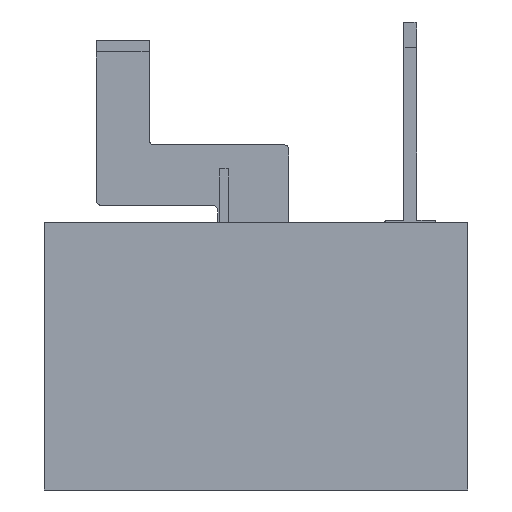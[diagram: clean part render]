
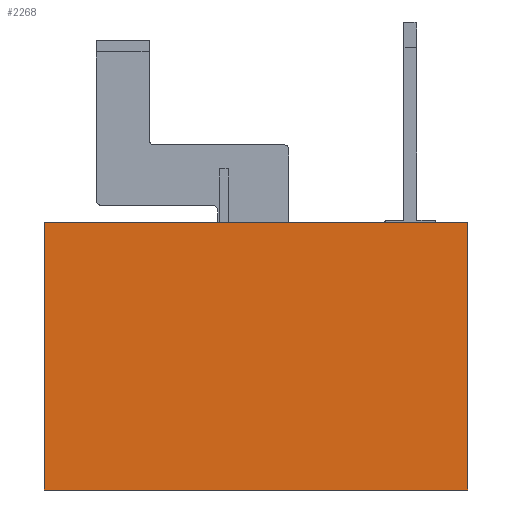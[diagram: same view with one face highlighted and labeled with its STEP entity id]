
A CAD part, front view. The second image highlights one B-rep face of the part: STEP entity #2268.
In plain terms, the highlighted planar face has unit normal (0, -1, 0).
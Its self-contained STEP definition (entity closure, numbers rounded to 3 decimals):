
#28 = ORIENTED_EDGE ( 'NONE', *, *, #6939, .F. ) ;
#333 = CARTESIAN_POINT ( 'NONE',  ( -82.5, 0., -52. ) ) ;
#1002 = DIRECTION ( 'NONE',  ( 1., 0., 0. ) ) ;
#1039 = FACE_OUTER_BOUND ( 'NONE', #6808, .T. ) ;
#1043 = ORIENTED_EDGE ( 'NONE', *, *, #7475, .F. ) ;
#1633 = CARTESIAN_POINT ( 'NONE',  ( 0., 0., 52. ) ) ;
#2059 = PLANE ( 'NONE',  #3081 ) ;
#2071 = EDGE_CURVE ( 'NONE', #6514, #5384, #4420, .T. ) ;
#2268 = ADVANCED_FACE ( 'NONE', ( #1039 ), #2059, .F. ) ;
#2973 = LINE ( 'NONE', #6004, #7303 ) ;
#3014 = CARTESIAN_POINT ( 'NONE',  ( 82.5, 0., 0. ) ) ;
#3065 = VECTOR ( 'NONE', #1002, 1000. ) ;
#3081 = AXIS2_PLACEMENT_3D ( 'NONE', #6358, #3284, #7579 ) ;
#3284 = DIRECTION ( 'NONE',  ( 0., 1., 0. ) ) ;
#3466 = LINE ( 'NONE', #3014, #6368 ) ;
#4027 = DIRECTION ( 'NONE',  ( -1., 0., 0. ) ) ;
#4046 = ORIENTED_EDGE ( 'NONE', *, *, #2071, .F. ) ;
#4070 = CARTESIAN_POINT ( 'NONE',  ( -82.5, 0., 52. ) ) ;
#4420 = LINE ( 'NONE', #5983, #5854 ) ;
#5003 = CARTESIAN_POINT ( 'NONE',  ( 82.5, 0., -52. ) ) ;
#5384 = VERTEX_POINT ( 'NONE', #333 ) ;
#5633 = EDGE_CURVE ( 'NONE', #7648, #6514, #3466, .T. ) ;
#5854 = VECTOR ( 'NONE', #4027, 1000. ) ;
#5863 = ORIENTED_EDGE ( 'NONE', *, *, #5633, .F. ) ;
#5983 = CARTESIAN_POINT ( 'NONE',  ( 0., 0., -52. ) ) ;
#6004 = CARTESIAN_POINT ( 'NONE',  ( -82.5, 0., 0. ) ) ;
#6358 = CARTESIAN_POINT ( 'NONE',  ( 0., 0., 0. ) ) ;
#6368 = VECTOR ( 'NONE', #7940, 1000. ) ;
#6514 = VERTEX_POINT ( 'NONE', #5003 ) ;
#6808 = EDGE_LOOP ( 'NONE', ( #5863, #1043, #28, #4046 ) ) ;
#6939 = EDGE_CURVE ( 'NONE', #5384, #7899, #2973, .T. ) ;
#7240 = DIRECTION ( 'NONE',  ( 0., 0., 1. ) ) ;
#7303 = VECTOR ( 'NONE', #7240, 1000. ) ;
#7342 = CARTESIAN_POINT ( 'NONE',  ( 82.5, 0., 52. ) ) ;
#7475 = EDGE_CURVE ( 'NONE', #7899, #7648, #7975, .T. ) ;
#7579 = DIRECTION ( 'NONE',  ( 0., 0., 1. ) ) ;
#7648 = VERTEX_POINT ( 'NONE', #7342 ) ;
#7899 = VERTEX_POINT ( 'NONE', #4070 ) ;
#7940 = DIRECTION ( 'NONE',  ( 0., 0., -1. ) ) ;
#7975 = LINE ( 'NONE', #1633, #3065 ) ;
